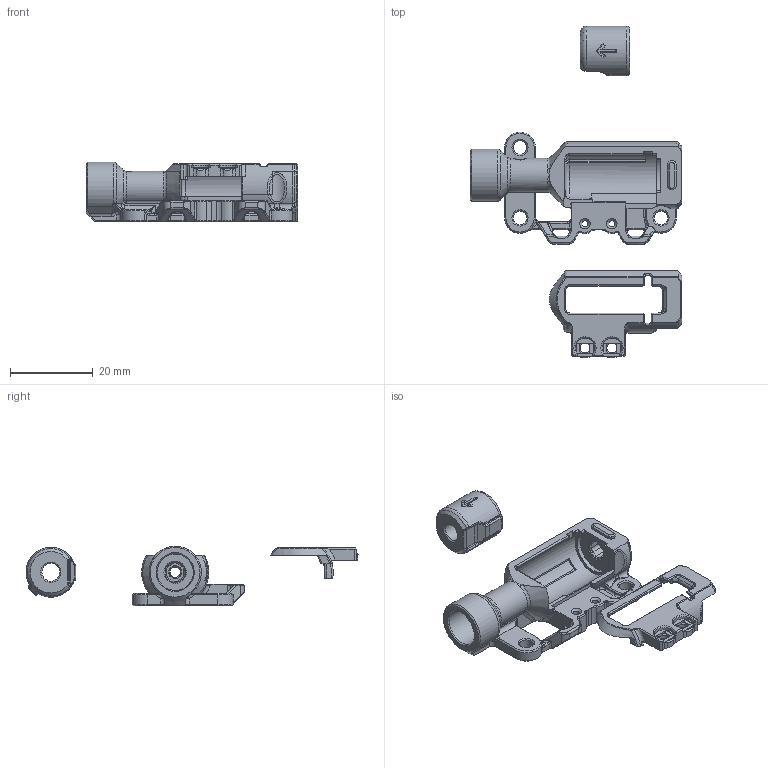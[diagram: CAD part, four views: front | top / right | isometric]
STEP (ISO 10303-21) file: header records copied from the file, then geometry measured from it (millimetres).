
FILE_DESCRIPTION(/* description */ (''),/* implementation_level */ '2;1');
FILE_NAME(/* name */ 'D:/3D打印/多色资料/mmx-multi-material-extruder-exclusive-final-release-model_files/CAD/111.stp',/* time_stamp */ '2025-12-08T20:37:47+08:00',/* author */ (''),/* organization */ (''),/* preprocessor_version */ 'ST-DEVELOPER v15.2',/* originating_system */ 'Autodesk Translator Framework v2.0.0.5431',/* authorisation */ '');
FILE_SCHEMA (('AUTOMOTIVE_DESIGN { 1 0 10303 214 3 1 1 }'));
Length unit declared in the file: centimetre
Products named in the file (1): Belay_ECAS04-扩孔
Bounding box: 51 x 80.07 x 14.39 mm (x, y, z)
Volume: 6343.8 mm3; surface area: 6455.8 mm2
Topology: 3 solids, 3 shells, 1055 faces, 2639 edges, 1525 vertices
Faces by surface type: plane 276, cylinder 268, bspline 266, cone 131, torus 102, sphere 12
Full cylindrical faces by diameter (mm): 1.5 x2, 2.4 x2, 3.3 x3, 4.3 x1, 8.85 x1
Entity records: 40997 total; most frequent: CARTESIAN_POINT 17872, ORIENTED_EDGE 5078, DIRECTION 4552, EDGE_CURVE 2539, AXIS2_PLACEMENT_3D 1773, VERTEX_POINT 1514, EDGE_LOOP 1107, ADVANCED_FACE 1055
